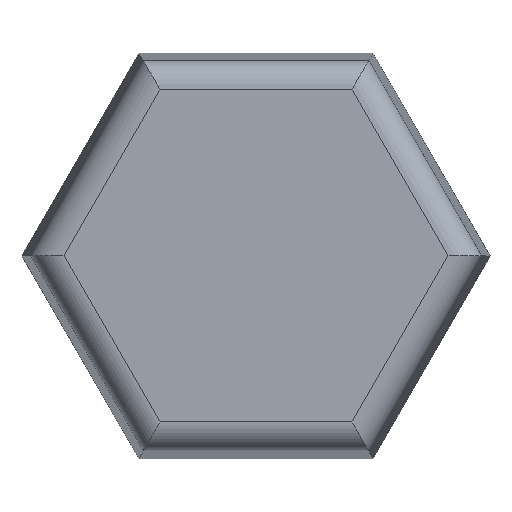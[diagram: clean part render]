
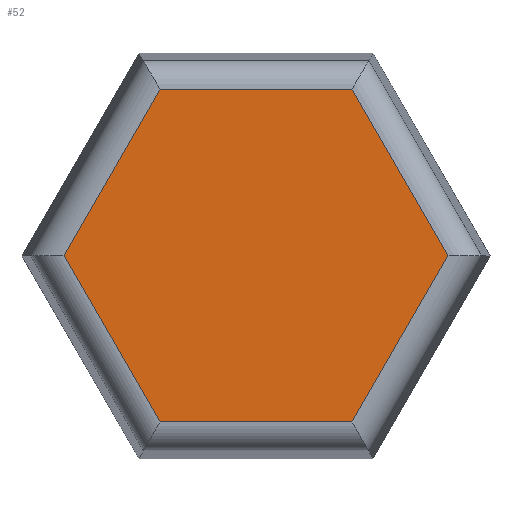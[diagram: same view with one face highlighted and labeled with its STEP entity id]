
A CAD part, top view. The second image highlights one B-rep face of the part: STEP entity #52.
In plain terms, the highlighted planar face has unit normal (0, 0, 1).
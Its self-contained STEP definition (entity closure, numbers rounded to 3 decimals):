
#52=ADVANCED_FACE('',(#74),#66,.T.);
#66=PLANE('',#259);
#74=FACE_OUTER_BOUND('',#88,.T.);
#88=EDGE_LOOP('',(#120,#121,#122,#123,#124,#125));
#120=ORIENTED_EDGE('',*,*,#192,.T.);
#121=ORIENTED_EDGE('',*,*,#193,.T.);
#122=ORIENTED_EDGE('',*,*,#194,.T.);
#123=ORIENTED_EDGE('',*,*,#195,.T.);
#124=ORIENTED_EDGE('',*,*,#196,.T.);
#125=ORIENTED_EDGE('',*,*,#197,.T.);
#168=VERTEX_POINT('',#377);
#169=VERTEX_POINT('',#378);
#170=VERTEX_POINT('',#380);
#171=VERTEX_POINT('',#382);
#172=VERTEX_POINT('',#384);
#173=VERTEX_POINT('',#386);
#192=EDGE_CURVE('',#168,#169,#222,.T.);
#193=EDGE_CURVE('',#169,#170,#223,.T.);
#194=EDGE_CURVE('',#170,#171,#224,.T.);
#195=EDGE_CURVE('',#171,#172,#225,.T.);
#196=EDGE_CURVE('',#172,#173,#226,.T.);
#197=EDGE_CURVE('',#173,#168,#227,.T.);
#222=LINE('',#376,#246);
#223=LINE('',#379,#247);
#224=LINE('',#381,#248);
#225=LINE('',#383,#249);
#226=LINE('',#385,#250);
#227=LINE('',#387,#251);
#246=VECTOR('',#305,1.);
#247=VECTOR('',#306,1.);
#248=VECTOR('',#307,1.);
#249=VECTOR('',#308,1.);
#250=VECTOR('',#309,1.);
#251=VECTOR('',#310,1.);
#259=AXIS2_PLACEMENT_3D('',#388,#311,#312);
#305=DIRECTION('',(-1.,0.,0.));
#306=DIRECTION('',(-0.5,-0.866,0.));
#307=DIRECTION('',(0.5,-0.866,0.));
#308=DIRECTION('',(1.,0.,0.));
#309=DIRECTION('',(0.5,0.866,0.));
#310=DIRECTION('',(-0.5,0.866,0.));
#311=DIRECTION('',(0.,0.,1.));
#312=DIRECTION('',(1.,0.,0.));
#376=CARTESIAN_POINT('',(-1.162,1.723,2.5));
#377=CARTESIAN_POINT('',(0.995,1.723,2.5));
#378=CARTESIAN_POINT('',(-0.995,1.723,2.5));
#379=CARTESIAN_POINT('',(-2.073,-0.145,2.5));
#380=CARTESIAN_POINT('',(-1.99,0.,2.5));
#381=CARTESIAN_POINT('',(-0.911,-1.868,2.5));
#382=CARTESIAN_POINT('',(-0.995,-1.723,2.5));
#383=CARTESIAN_POINT('',(1.162,-1.723,2.5));
#384=CARTESIAN_POINT('',(0.995,-1.723,2.5));
#385=CARTESIAN_POINT('',(2.073,0.145,2.5));
#386=CARTESIAN_POINT('',(1.99,0.,2.5));
#387=CARTESIAN_POINT('',(0.911,1.868,2.5));
#388=CARTESIAN_POINT('',(-1.212,-2.1,2.5));
